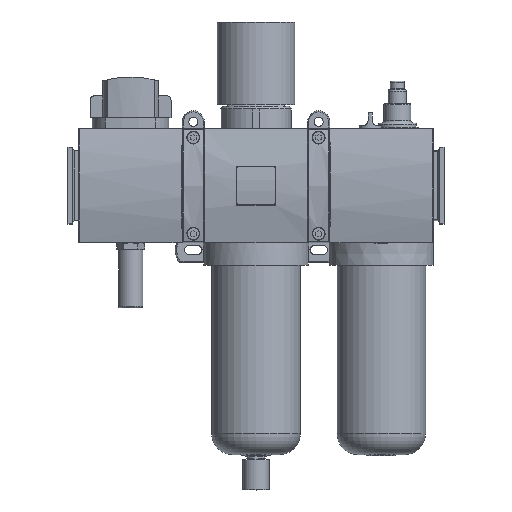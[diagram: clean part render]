
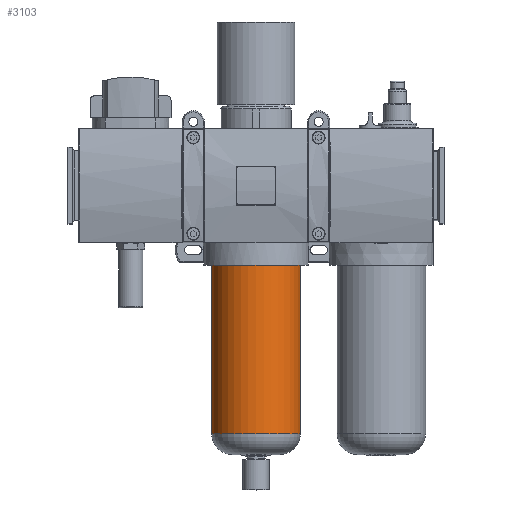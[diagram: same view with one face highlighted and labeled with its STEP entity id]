
A CAD part, top view. The second image highlights one B-rep face of the part: STEP entity #3103.
In plain terms, the highlighted cylindrical face has radius 31.75 mm (diameter 63.5 mm), a full revolution.
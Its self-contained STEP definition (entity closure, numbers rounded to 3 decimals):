
#3103 = ADVANCED_FACE( '', ( #6333, #6334 ), #6335, .T. );
#6333 = FACE_OUTER_BOUND( '', #9668, .T. );
#6334 = FACE_OUTER_BOUND( '', #9669, .T. );
#6335 = CYLINDRICAL_SURFACE( '', #9670, 31.75 );
#9668 = EDGE_LOOP( '', ( #17519 ) );
#9669 = EDGE_LOOP( '', ( #17520 ) );
#9670 = AXIS2_PLACEMENT_3D( '', #17521, #17522, #17523 );
#17519 = ORIENTED_EDGE( '', *, *, #21773, .F. );
#17520 = ORIENTED_EDGE( '', *, *, #21554, .T. );
#17521 = CARTESIAN_POINT( '', ( 0., -136.7, 0. ) );
#17522 = DIRECTION( '', ( 0., 1., 0. ) );
#17523 = DIRECTION( '', ( 0., 0., -1. ) );
#21554 = EDGE_CURVE( '', #26353, #26353, #26354, .T. );
#21773 = EDGE_CURVE( '', #26620, #26620, #26621, .T. );
#26353 = VERTEX_POINT( '', #33240 );
#26354 = CIRCLE( '', #33241, 31.75 );
#26620 = VERTEX_POINT( '', #33613 );
#26621 = CIRCLE( '', #33614, 31.75 );
#33240 = CARTESIAN_POINT( '', ( 0., 0., -31.75 ) );
#33241 = AXIS2_PLACEMENT_3D( '', #37477, #37478, #37479 );
#33613 = CARTESIAN_POINT( '', ( 0., -121.1, -31.75 ) );
#33614 = AXIS2_PLACEMENT_3D( '', #37670, #37671, #37672 );
#37477 = CARTESIAN_POINT( '', ( 0., 0., 0. ) );
#37478 = DIRECTION( '', ( 0., -1., 0. ) );
#37479 = DIRECTION( '', ( 0., 0., -1. ) );
#37670 = CARTESIAN_POINT( '', ( 0., -121.1, 0. ) );
#37671 = DIRECTION( '', ( 0., -1., 0. ) );
#37672 = DIRECTION( '', ( 0., 0., -1. ) );
